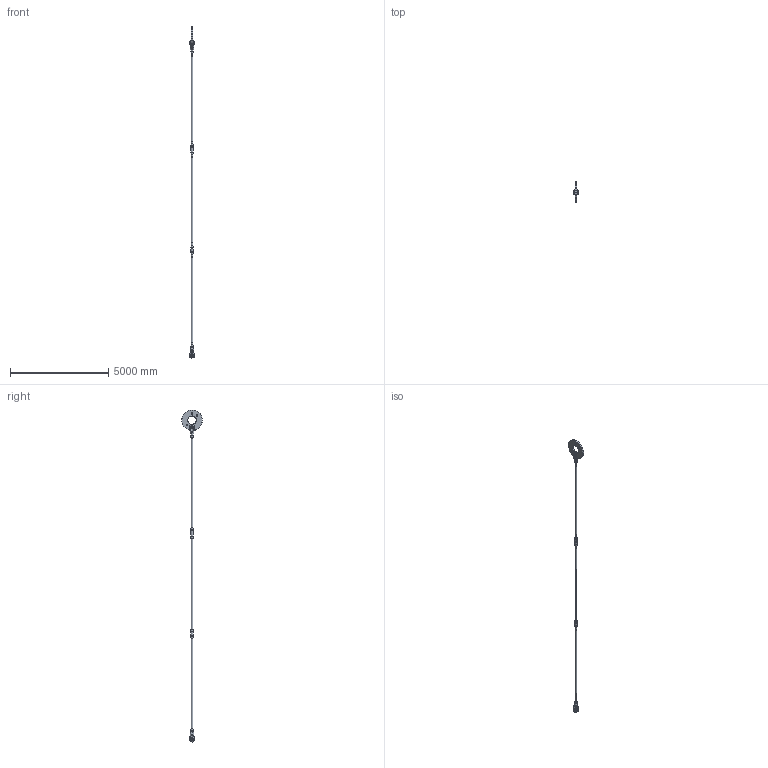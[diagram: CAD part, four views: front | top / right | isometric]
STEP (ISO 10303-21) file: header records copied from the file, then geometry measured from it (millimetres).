
FILE_DESCRIPTION(/* description */ (''),/* implementation_level */ '2;1');
FILE_NAME(/* name */ 'C:\Vault-WS\Anker\Werksnorm\Hochbau\ASDO-System\ASDO-S\System Komplett\Step\M 085.stp',/* time_stamp */ '2014-01-30T09:24:51+01:00',/* author */ ('ritgen'),/* organization */ (''),/* preprocessor_version */ 'ST-DEVELOPER v15.2',/* originating_system */ 'Autodesk Inventor 2014',/* authorisation */ '');
FILE_SCHEMA (('AUTOMOTIVE_DESIGN { 1 0 10303 214 3 1 1 }'));
Length unit declared in the file: millimetre
Products named in the file (11): ASDO-005769; ASDO-014274; ASDO-014326; DIN 7991 - M16x35 - 8.8; ASDO-013943; ASDO-001707; ASDO-001356; ASDO-001462; ASDO-006460; ASDO-014040; ASDO-006459
Bounding box: 215 x 1044.01 x 16931.27 mm (x, y, z)
Volume: 164924824.2 mm3; surface area: 8164339 mm2
Topology: 24 solids, 24 shells, 499 faces, 1068 edges, 650 vertices
Faces by surface type: plane 164, bspline 144, cylinder 89, cone 58, torus 44
Full cylindrical faces by diameter (mm): 9 x18, 13.835 x4, 16 x4, 18 x4, 30 x4, 78.505 x11, 85 x5, 87 x14, 89 x1, 89.5 x6, 122 x6, 125 x4, 133 x2, 425 x1, 1045 x1
Entity records: 13946 total; most frequent: CARTESIAN_POINT 9603, DIRECTION 786, ORIENTED_EDGE 774, EDGE_CURVE 387, AXIS2_PLACEMENT_3D 361, EDGE_LOOP 326, VERTEX_POINT 273, ADVANCED_FACE 217
